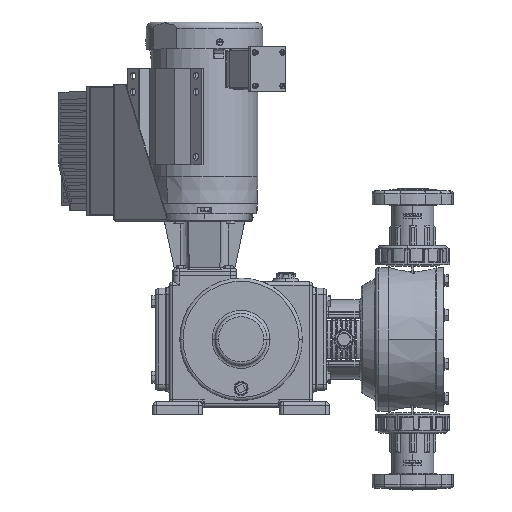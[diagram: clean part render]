
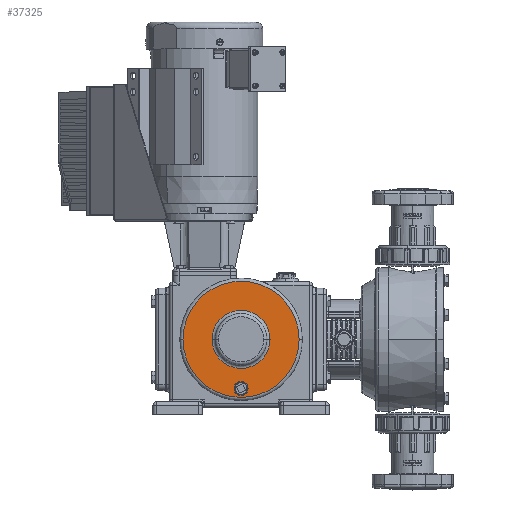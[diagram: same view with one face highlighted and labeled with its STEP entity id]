
A CAD part, top view. The second image highlights one B-rep face of the part: STEP entity #37325.
In plain terms, the highlighted planar face has unit normal (0, 0, 1).
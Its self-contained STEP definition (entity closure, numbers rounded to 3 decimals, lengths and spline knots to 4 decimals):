
#1070 = VERTEX_POINT ( 'NONE', #117254 ) ;
#4977 = VERTEX_POINT ( 'NONE', #87967 ) ;
#7271 = EDGE_LOOP ( 'NONE', ( #101050, #44282 ) ) ;
#7456 = DIRECTION ( 'NONE',  ( 0., 0., 1. ) ) ;
#10550 = DIRECTION ( 'NONE',  ( 1., 0., 0. ) ) ;
#12799 = VERTEX_POINT ( 'NONE', #45019 ) ;
#13911 = EDGE_CURVE ( 'NONE', #59106, #1070, #62761, .T. ) ;
#19398 = VERTEX_POINT ( 'NONE', #48392 ) ;
#20795 = CARTESIAN_POINT ( 'NONE',  ( -12.6526, -2.4771, 10.3861 ) ) ;
#23724 = EDGE_CURVE ( 'NONE', #1070, #59106, #44882, .T. ) ;
#29895 = AXIS2_PLACEMENT_3D ( 'NONE', #106372, #30586, #105531 ) ;
#30586 = DIRECTION ( 'NONE',  ( 0., 0., 1. ) ) ;
#33173 = ORIENTED_EDGE ( 'NONE', *, *, #13911, .F. ) ;
#34221 = ORIENTED_EDGE ( 'NONE', *, *, #23724, .F. ) ;
#34955 = DIRECTION ( 'NONE',  ( 1., 0., 0. ) ) ;
#37325 = ADVANCED_FACE ( 'NONE', ( #132500, #155909, #55025 ), #106642, .T. ) ;
#39012 = CIRCLE ( 'NONE', #46969, 3.5827 ) ;
#39200 = VERTEX_POINT ( 'NONE', #120846 ) ;
#41703 = DIRECTION ( 'NONE',  ( 1., 0., 0. ) ) ;
#44282 = ORIENTED_EDGE ( 'NONE', *, *, #47720, .T. ) ;
#44882 = CIRCLE ( 'NONE', #71376, 0.4335 ) ;
#45019 = CARTESIAN_POINT ( 'NONE',  ( -10.8613, 0.5544, 10.3861 ) ) ;
#46969 = AXIS2_PLACEMENT_3D ( 'NONE', #73098, #60603, #133979 ) ;
#47720 = EDGE_CURVE ( 'NONE', #39200, #19398, #101683, .T. ) ;
#48392 = CARTESIAN_POINT ( 'NONE',  ( -9.07, 0.5544, 10.3861 ) ) ;
#55025 = FACE_BOUND ( 'NONE', #152501, .T. ) ;
#56365 = CIRCLE ( 'NONE', #128226, 1.7913 ) ;
#56742 = ORIENTED_EDGE ( 'NONE', *, *, #122506, .T. ) ;
#59106 = VERTEX_POINT ( 'NONE', #66431 ) ;
#60603 = DIRECTION ( 'NONE',  ( 0., 0., 1. ) ) ;
#60715 = DIRECTION ( 'NONE',  ( 1., 0., 0. ) ) ;
#62761 = CIRCLE ( 'NONE', #155996, 0.4335 ) ;
#66182 = EDGE_CURVE ( 'NONE', #12799, #4977, #56365, .T. ) ;
#66203 = DIRECTION ( 'NONE',  ( 0., 0., -1. ) ) ;
#66431 = CARTESIAN_POINT ( 'NONE',  ( -13.0861, -2.4771, 10.3861 ) ) ;
#67800 = DIRECTION ( 'NONE',  ( 1., 0., 0. ) ) ;
#71376 = AXIS2_PLACEMENT_3D ( 'NONE', #20795, #71582, #34955 ) ;
#71582 = DIRECTION ( 'NONE',  ( 0., 0., 1. ) ) ;
#73098 = CARTESIAN_POINT ( 'NONE',  ( -12.6526, 0.5544, 10.3861 ) ) ;
#84006 = EDGE_LOOP ( 'NONE', ( #34221, #33173 ) ) ;
#85503 = DIRECTION ( 'NONE',  ( 0., 0., -1. ) ) ;
#87967 = CARTESIAN_POINT ( 'NONE',  ( -14.444, 0.5544, 10.3861 ) ) ;
#94932 = CARTESIAN_POINT ( 'NONE',  ( -12.6526, 0.5544, 10.3861 ) ) ;
#101050 = ORIENTED_EDGE ( 'NONE', *, *, #118203, .T. ) ;
#101216 = AXIS2_PLACEMENT_3D ( 'NONE', #94932, #155117, #41703 ) ;
#101683 = CIRCLE ( 'NONE', #29895, 3.5827 ) ;
#105531 = DIRECTION ( 'NONE',  ( 1., 0., 0. ) ) ;
#106372 = CARTESIAN_POINT ( 'NONE',  ( -12.6526, 0.5544, 10.3861 ) ) ;
#106642 = PLANE ( 'NONE',  #101216 ) ;
#111635 = AXIS2_PLACEMENT_3D ( 'NONE', #163051, #85503, #10550 ) ;
#112726 = ORIENTED_EDGE ( 'NONE', *, *, #66182, .T. ) ;
#117254 = CARTESIAN_POINT ( 'NONE',  ( -12.2192, -2.4771, 10.3861 ) ) ;
#118203 = EDGE_CURVE ( 'NONE', #19398, #39200, #39012, .T. ) ;
#120846 = CARTESIAN_POINT ( 'NONE',  ( -16.2353, 0.5544, 10.3861 ) ) ;
#122506 = EDGE_CURVE ( 'NONE', #4977, #12799, #135705, .T. ) ;
#128226 = AXIS2_PLACEMENT_3D ( 'NONE', #158666, #66203, #67800 ) ;
#132500 = FACE_BOUND ( 'NONE', #84006, .T. ) ;
#133979 = DIRECTION ( 'NONE',  ( 1., 0., 0. ) ) ;
#135705 = CIRCLE ( 'NONE', #111635, 1.7913 ) ;
#152501 = EDGE_LOOP ( 'NONE', ( #112726, #56742 ) ) ;
#155117 = DIRECTION ( 'NONE',  ( 0., 0., 1. ) ) ;
#155909 = FACE_OUTER_BOUND ( 'NONE', #7271, .T. ) ;
#155996 = AXIS2_PLACEMENT_3D ( 'NONE', #160790, #7456, #60715 ) ;
#158666 = CARTESIAN_POINT ( 'NONE',  ( -12.6526, 0.5544, 10.3861 ) ) ;
#160790 = CARTESIAN_POINT ( 'NONE',  ( -12.6526, -2.4771, 10.3861 ) ) ;
#163051 = CARTESIAN_POINT ( 'NONE',  ( -12.6526, 0.5544, 10.3861 ) ) ;
